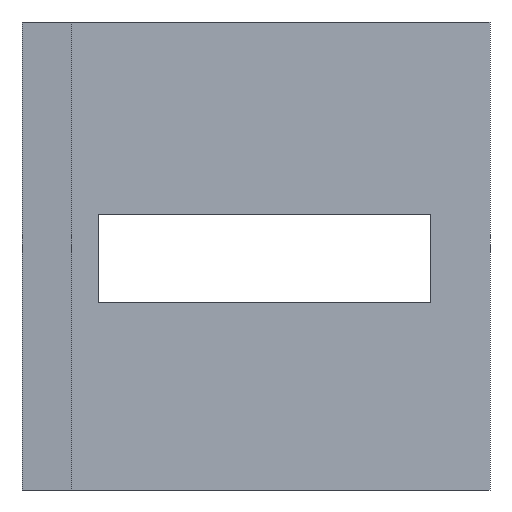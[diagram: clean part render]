
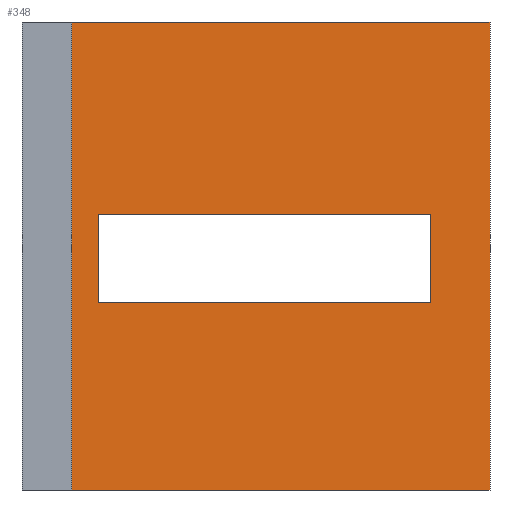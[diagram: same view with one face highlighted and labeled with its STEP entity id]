
A CAD part, left-side view. The second image highlights one B-rep face of the part: STEP entity #348.
In plain terms, the highlighted planar face has unit normal (-0.707, -0.707, 0).
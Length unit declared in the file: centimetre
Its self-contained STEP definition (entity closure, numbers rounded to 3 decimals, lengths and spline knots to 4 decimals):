
#6 = VECTOR ( 'NONE', #186, 100. ) ;
#13 = DIRECTION ( 'NONE',  ( 0., 0., -1. ) ) ;
#19 = CARTESIAN_POINT ( 'NONE',  ( 893.591, 0., 1000. ) ) ;
#36 = VERTEX_POINT ( 'NONE', #340 ) ;
#43 = FACE_OUTER_BOUND ( 'NONE', #341, .T. ) ;
#56 = LINE ( 'NONE', #308, #6 ) ;
#64 = VERTEX_POINT ( 'NONE', #347 ) ;
#70 = DIRECTION ( 'NONE',  ( 0., 0., -1. ) ) ;
#71 = LINE ( 'NONE', #100, #274 ) ;
#73 = CARTESIAN_POINT ( 'NONE',  ( 893.591, 0., 588.4417 ) ) ;
#74 = DIRECTION ( 'NONE',  ( 0.707, -0.707, 0. ) ) ;
#78 = PLANE ( 'NONE',  #391 ) ;
#80 = EDGE_CURVE ( 'NONE', #91, #381, #56, .T. ) ;
#85 = VECTOR ( 'NONE', #99, 100. ) ;
#91 = VERTEX_POINT ( 'NONE', #174 ) ;
#92 = ORIENTED_EDGE ( 'NONE', *, *, #80, .F. ) ;
#93 = VERTEX_POINT ( 'NONE', #208 ) ;
#94 = ORIENTED_EDGE ( 'NONE', *, *, #111, .F. ) ;
#98 = VECTOR ( 'NONE', #400, 100. ) ;
#99 = DIRECTION ( 'NONE',  ( 0., 0., -1. ) ) ;
#100 = CARTESIAN_POINT ( 'NONE',  ( 893.591, 0., 400.3438 ) ) ;
#103 = LINE ( 'NONE', #73, #329 ) ;
#106 = VECTOR ( 'NONE', #164, 100. ) ;
#107 = DIRECTION ( 'NONE',  ( 0., 0., 1. ) ) ;
#111 = EDGE_CURVE ( 'NONE', #93, #91, #126, .T. ) ;
#123 = ORIENTED_EDGE ( 'NONE', *, *, #354, .F. ) ;
#126 = LINE ( 'NONE', #146, #98 ) ;
#132 = FACE_BOUND ( 'NONE', #374, .T. ) ;
#134 = CARTESIAN_POINT ( 'NONE',  ( 893.591, 0., 1000. ) ) ;
#146 = CARTESIAN_POINT ( 'NONE',  ( 893.591, 0., 0. ) ) ;
#164 = DIRECTION ( 'NONE',  ( 0.707, -0.707, 0. ) ) ;
#174 = CARTESIAN_POINT ( 'NONE',  ( 0., 893.591, 0. ) ) ;
#186 = DIRECTION ( 'NONE',  ( 0., 0., 1. ) ) ;
#188 = VECTOR ( 'NONE', #107, 100. ) ;
#189 = CARTESIAN_POINT ( 'NONE',  ( 767.4258, 126.1652, 588.4417 ) ) ;
#191 = CARTESIAN_POINT ( 'NONE',  ( 57.7261, 835.8649, 588.4417 ) ) ;
#192 = CARTESIAN_POINT ( 'NONE',  ( 446.7955, 446.7955, 1000. ) ) ;
#207 = VECTOR ( 'NONE', #13, 100. ) ;
#208 = CARTESIAN_POINT ( 'NONE',  ( 893.591, 0., 0. ) ) ;
#217 = VERTEX_POINT ( 'NONE', #189 ) ;
#224 = CARTESIAN_POINT ( 'NONE',  ( 57.7261, 835.8649, 1000. ) ) ;
#226 = LINE ( 'NONE', #387, #188 ) ;
#240 = ORIENTED_EDGE ( 'NONE', *, *, #251, .F. ) ;
#244 = ORIENTED_EDGE ( 'NONE', *, *, #327, .F. ) ;
#247 = ORIENTED_EDGE ( 'NONE', *, *, #273, .F. ) ;
#251 = EDGE_CURVE ( 'NONE', #381, #36, #351, .T. ) ;
#256 = DIRECTION ( 'NONE',  ( -0.707, 0.707, 0. ) ) ;
#273 = EDGE_CURVE ( 'NONE', #372, #64, #71, .T. ) ;
#274 = VECTOR ( 'NONE', #74, 100. ) ;
#284 = CARTESIAN_POINT ( 'NONE',  ( 0., 893.591, 1000. ) ) ;
#293 = LINE ( 'NONE', #19, #85 ) ;
#297 = ORIENTED_EDGE ( 'NONE', *, *, #376, .F. ) ;
#308 = CARTESIAN_POINT ( 'NONE',  ( 0., 893.591, 1000. ) ) ;
#322 = LINE ( 'NONE', #224, #207 ) ;
#325 = DIRECTION ( 'NONE',  ( 0.707, 0.707, 0. ) ) ;
#327 = EDGE_CURVE ( 'NONE', #217, #403, #103, .T. ) ;
#329 = VECTOR ( 'NONE', #256, 100. ) ;
#339 = ORIENTED_EDGE ( 'NONE', *, *, #369, .F. ) ;
#340 = CARTESIAN_POINT ( 'NONE',  ( 893.591, 0., 1000. ) ) ;
#341 = EDGE_LOOP ( 'NONE', ( #240, #92, #94, #339 ) ) ;
#347 = CARTESIAN_POINT ( 'NONE',  ( 767.4258, 126.1652, 400.3438 ) ) ;
#348 = ADVANCED_FACE ( 'NONE', ( #132, #43 ), #78, .F. ) ;
#351 = LINE ( 'NONE', #192, #106 ) ;
#354 = EDGE_CURVE ( 'NONE', #403, #372, #322, .T. ) ;
#369 = EDGE_CURVE ( 'NONE', #36, #93, #293, .T. ) ;
#372 = VERTEX_POINT ( 'NONE', #392 ) ;
#374 = EDGE_LOOP ( 'NONE', ( #247, #123, #244, #297 ) ) ;
#376 = EDGE_CURVE ( 'NONE', #64, #217, #226, .T. ) ;
#381 = VERTEX_POINT ( 'NONE', #284 ) ;
#387 = CARTESIAN_POINT ( 'NONE',  ( 767.4258, 126.1652, 1000. ) ) ;
#391 = AXIS2_PLACEMENT_3D ( 'NONE', #134, #325, #70 ) ;
#392 = CARTESIAN_POINT ( 'NONE',  ( 57.7261, 835.8649, 400.3438 ) ) ;
#400 = DIRECTION ( 'NONE',  ( -0.707, 0.707, 0. ) ) ;
#403 = VERTEX_POINT ( 'NONE', #191 ) ;
